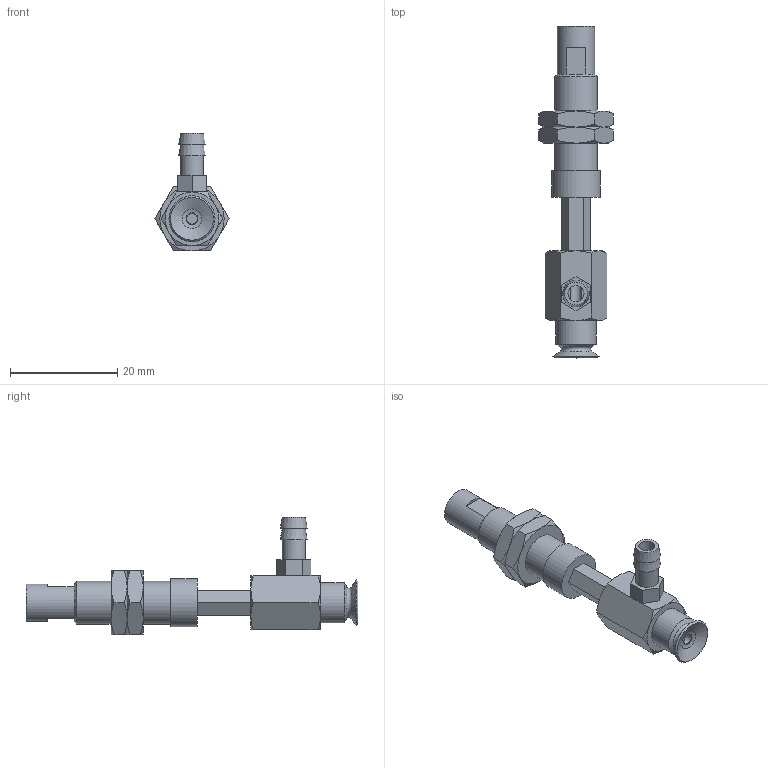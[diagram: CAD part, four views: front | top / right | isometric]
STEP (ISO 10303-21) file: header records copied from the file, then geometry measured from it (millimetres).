
FILE_DESCRIPTION(('STEP AP203'),'1');
FILE_NAME('-T.stp','2025-04-10T03:13:31',(' '),(' '),'Spatial InterOp 3D',' ',' ');
FILE_SCHEMA(('CONFIG_CONTROL_DESIGN'));
Length unit declared in the file: millimetre
Products named in the file (7): BNABPFYH-8A-10-※-T; CONNECTOR-H-8A-10; Nut-8A-10-h; NAPFTH-8A-10-FBODY; NAPFTH-8A-10-MBODY; BPFG-8A-※; T
Assembly tree (7 placements, depth 2):
  BNABPFYH-8A-10-※-T
    CONNECTOR-H-8A-10
    Nut-8A-10-h  x2
    NAPFTH-8A-10-FBODY
    NAPFTH-8A-10-MBODY
    BPFG-8A-※
    T
Bounding box: 13.86 x 62 x 22 mm (x, y, z)
Volume: 3564.6 mm3; surface area: 4551 mm2
Topology: 7 solids, 7 shells, 157 faces, 337 edges, 206 vertices
Faces by surface type: plane 74, cone 54, cylinder 18, torus 10, bspline 1
Full cylindrical faces by diameter (mm): 2 x2, 3 x1, 4 x2, 4.134 x2, 4.3 x1, 5 x2, 6 x2, 7 x1, 7.188 x2, 7.5 x1, 8 x1, 9 x1
Entity records: 3949 total; most frequent: CARTESIAN_POINT 925, DIRECTION 556, ORIENTED_EDGE 476, EDGE_CURVE 238, AXIS2_PLACEMENT_3D 231, EDGE_LOOP 200, VERTEX_POINT 170, FACE_OUTER_BOUND 162
